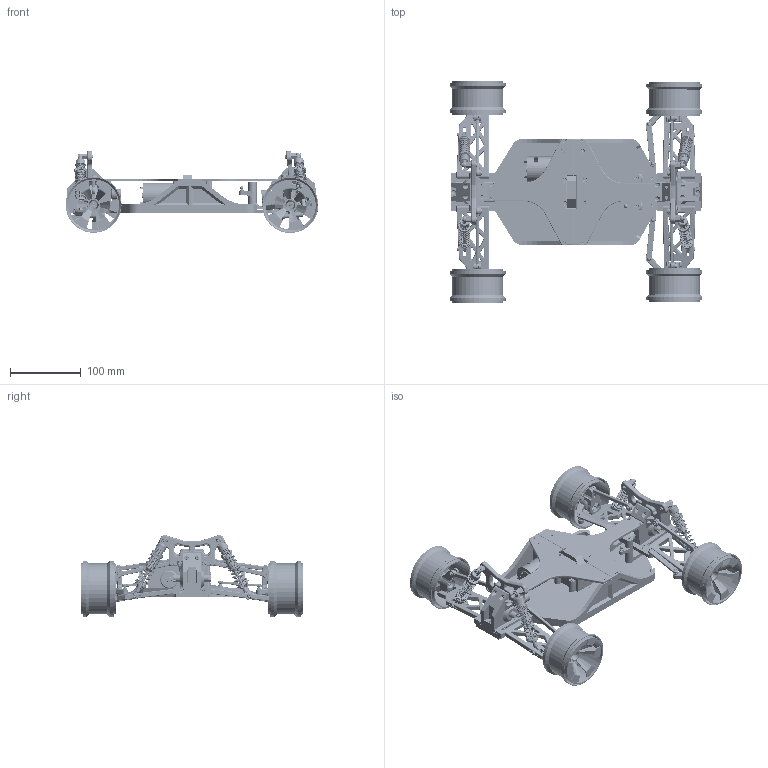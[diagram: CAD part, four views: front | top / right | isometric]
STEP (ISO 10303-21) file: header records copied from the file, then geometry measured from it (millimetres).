
FILE_DESCRIPTION(('STEP AP214'),'1');
FILE_NAME('C:/Users/dn/Downloads/OpenRC Truggy Concept Car.A.4.stp','2013-01-14T13:58:19',(' '),(' '),'Spatial InterOp 3D',' ',' ');
FILE_SCHEMA(('automotive_design'));
Length unit declared in the file: millimetre
Products named in the file (114): OpenRC Truggy Concept Car; Hexagon Socket Countersunk Head Screw ISO 10642 - M3 × 8; Hexagon Socket Pan Head Cap Screw ISO 7380 - M3 × 8; Left lower Shield; Left lower Shield (Mirror); Top Deck Rear; Top Deck Front; Rim; Steering Pin; Chassie Plate; Chassie Plate Rear; Chassie Plate Front; Front Assembly; Wishbone Pin Holder; Hexagon Socket Countersunk Head Screw ISO 10642 - M3 × 12; Wishbone Pin; Wishbone  Front; Shock Tower Front; Shock Spacer; Turnbuckle Spacer; Hexagon Socket Pan Head Cap Screw ISO 7380 - M3 × 12; Front C-Hub Pin; Turnbuckle Front; Hexagon Socket Pan Head Cap Screw ISO 7380 - M3 × 10; Hexagon Socket Pan Head Cap Screw ISO 7380 - M3 _ 8; Hexagon Nut ISO 4032 - M3; Differential Housing Assy; Front Rear Diff Assy; Bearing 10x15x4; Bevel-Gear-Part1_E1016S40_Mekanex_E1016S40_Mekanex; Drive Shaft Joint; OpenRC Differential Assy; Case_Clean.Shape 2; Axle to CVD 1; Drive Gear; Bevel-Gear-Part2_E1016S40_Mekanex_E1016S40_Mekanex; Gears; Bevel-Gear-Part1_A1016M16-1_Mekanex_A1016M16-1_Mekanex; Bevel-Gear-Part2_A1016M16-1_Mekanex_A1016M16-1_Mekanex; Side Gear Axle - Copy - Copy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
Assembly tree (223 placements, depth 6):
  OpenRC Truggy Concept Car
    Hexagon Socket Countersunk Head Screw ISO 10642 - M3 × 8  x34
    Hexagon Socket Pan Head Cap Screw ISO 7380 - M3 × 8  x4
    Left lower Shield
    Left lower Shield (Mirror)
    Top Deck Rear
    Top Deck Front
    Rim  x4
    Steering Pin  x2
    Chassie Plate
      Chassie Plate Rear
      Chassie Plate Front
    Front Assembly
      Wishbone Pin Holder
      Hexagon Socket Countersunk Head Screw ISO 10642 - M3 × 12  x2
      Wishbone Pin  x2
      Wishbone  Front  x2
      Shock Tower Front
      Shock Spacer  x2
      Hexagon Socket Pan Head Cap Screw ISO 7380 - M3 × 8  x4
      Turnbuckle Spacer  x2
      Hexagon Socket Pan Head Cap Screw ISO 7380 - M3 × 12  x2
      Front C-Hub Pin  x2
      Turnbuckle Front  x2
      Hexagon Socket Pan Head Cap Screw ISO 7380 - M3 × 10  x2
      Hexagon Socket Pan Head Cap Screw ISO 7380 - M3 _ 8  x4
      Hexagon Nut ISO 4032 - M3  x2
      Differential Housing Assy
        Front Rear Diff Assy
        Front Rear Diff Assy
        Bearing 10x15x4  x2
        Bevel-Gear-Part1_E1016S40_Mekanex_E1016S40_Mekanex
        Hexagon Socket Pan Head Cap Screw ISO 7380 - M3 × 12
        Drive Shaft Joint
        Hexagon Nut ISO 4032 - M3  x9
        Hexagon Socket Pan Head Cap Screw ISO 7380 - M3 × 8  x2
        OpenRC Differential Assy
          Case_Clean.Shape 2
          Axle to CVD 1  x2
          Bearing 10x15x4  x2
          Drive Gear
            Bevel-Gear-Part2_E1016S40_Mekanex_E1016S40_Mekanex
          Gears
            Bevel-Gear-Part1_A1016M16-1_Mekanex_A1016M16-1_Mekanex  x2
            Bevel-Gear-Part2_A1016M16-1_Mekanex_A1016M16-1_Mekanex  x2
            Side Gear Axle - Copy - Copy
      Front C-Hub - LEFT
        C-Hub
        Steering Block
        5mm Ball Joint
        Hexagon Socket Countersunk Head Screw ISO 10642 - M3 × 8  x2
        NONE  x2
      Front C-Hub - RIGHT
        C-Hub
        Steering Block
        5mm Ball Joint
        NONE  x2
        Hexagon Socket Countersunk Head Screw ISO 10642 - M3 × 8  x2
      Truggy Shocks  x2
        Oil Container
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Bounding box: 357.02 x 313.53 x 115.84 mm (x, y, z)
Volume: 810003.1 mm3; surface area: 625153.1 mm2
Topology: 261 solids, 269 shells, 12391 faces, 32967 edges, 21029 vertices
Faces by surface type: plane 3988, cylinder 3369, cone 1686, bspline 1548, torus 1058, sphere 572, extrusion 170
Full cylindrical faces by diameter (mm): 6.023 x4
Entity records: 225154 total; most frequent: CARTESIAN_POINT 80936, ORIENTED_EDGE 22700, DIRECTION 22305, EDGE_CURVE 11350, AXIS2_PLACEMENT_3D 8571, VERTEX_POINT 7268, VECTOR 5163, LINE 4993
